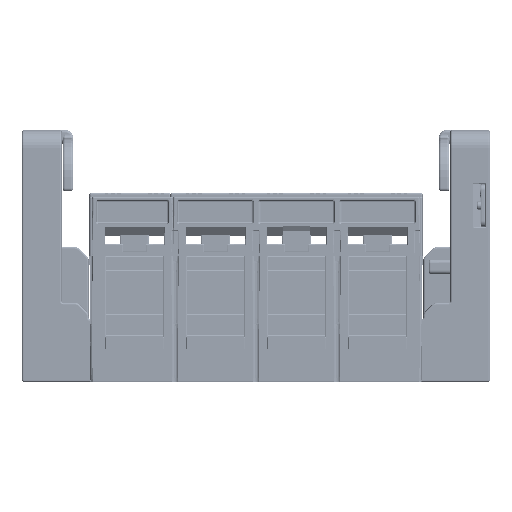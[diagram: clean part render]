
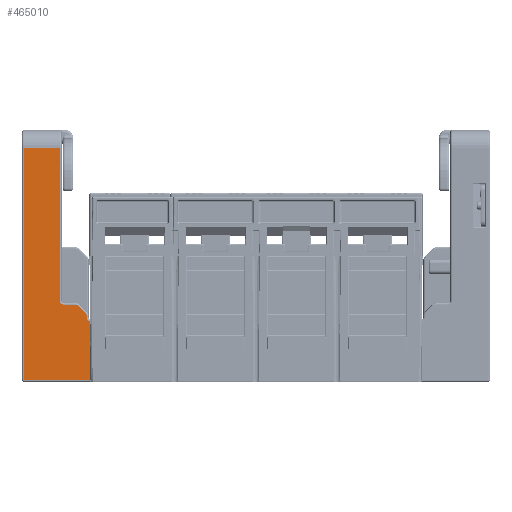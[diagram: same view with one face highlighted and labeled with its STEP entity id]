
A CAD part, front view. The second image highlights one B-rep face of the part: STEP entity #465010.
In plain terms, the highlighted planar face has unit normal (0, -1, 0).
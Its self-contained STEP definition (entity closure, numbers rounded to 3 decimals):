
#462254 = VERTEX_POINT ( 'NONE', #490273 ) ;
#462264 = EDGE_CURVE ( 'NONE', #462267, #462254, #490256, .T. ) ;
#462267 = VERTEX_POINT ( 'NONE', #490231 ) ;
#464785 = VERTEX_POINT ( 'NONE', #500492 ) ;
#464793 = EDGE_CURVE ( 'NONE', #464796, #464785, #500664, .T. ) ;
#464796 = VERTEX_POINT ( 'NONE', #500649 ) ;
#465010 = ADVANCED_FACE ( 'NONE', ( #501268 ), #501409, .F. ) ;
#465018 = EDGE_LOOP ( 'NONE', ( #465021, #465043, #465149, #465169, #465184, #465197, #465212, #465330, #465333, #465342, #465354, #465114 ) ) ;
#465021 = ORIENTED_EDGE ( 'NONE', *, *, #465027, .F. ) ;
#465027 = EDGE_CURVE ( 'NONE', #465032, #465036, #501362, .T. ) ;
#465032 = VERTEX_POINT ( 'NONE', #501353 ) ;
#465036 = VERTEX_POINT ( 'NONE', #501339 ) ;
#465043 = ORIENTED_EDGE ( 'NONE', *, *, #465045, .F. ) ;
#465045 = EDGE_CURVE ( 'NONE', #465048, #465032, #501318, .T. ) ;
#465048 = VERTEX_POINT ( 'NONE', #501322 ) ;
#465114 = ORIENTED_EDGE ( 'NONE', *, *, #465116, .F. ) ;
#465116 = EDGE_CURVE ( 'NONE', #465036, #462254, #501574, .T. ) ;
#465149 = ORIENTED_EDGE ( 'NONE', *, *, #465160, .F. ) ;
#465160 = EDGE_CURVE ( 'NONE', #465163, #465048, #501876, .T. ) ;
#465163 = VERTEX_POINT ( 'NONE', #501864 ) ;
#465169 = ORIENTED_EDGE ( 'NONE', *, *, #465178, .F. ) ;
#465178 = EDGE_CURVE ( 'NONE', #465180, #465163, #501833, .T. ) ;
#465180 = VERTEX_POINT ( 'NONE', #502065 ) ;
#465184 = ORIENTED_EDGE ( 'NONE', *, *, #465193, .F. ) ;
#465193 = EDGE_CURVE ( 'NONE', #465196, #465180, #502055, .T. ) ;
#465196 = VERTEX_POINT ( 'NONE', #502011 ) ;
#465197 = ORIENTED_EDGE ( 'NONE', *, *, #465199, .F. ) ;
#465199 = EDGE_CURVE ( 'NONE', #465202, #465196, #501950, .T. ) ;
#465202 = VERTEX_POINT ( 'NONE', #501952 ) ;
#465212 = ORIENTED_EDGE ( 'NONE', *, *, #465214, .F. ) ;
#465214 = EDGE_CURVE ( 'NONE', #464796, #465202, #502154, .T. ) ;
#465330 = ORIENTED_EDGE ( 'NONE', *, *, #464793, .T. ) ;
#465333 = ORIENTED_EDGE ( 'NONE', *, *, #465335, .F. ) ;
#465335 = EDGE_CURVE ( 'NONE', #465338, #464785, #502688, .T. ) ;
#465338 = VERTEX_POINT ( 'NONE', #502645 ) ;
#465342 = ORIENTED_EDGE ( 'NONE', *, *, #465349, .F. ) ;
#465349 = EDGE_CURVE ( 'NONE', #462267, #465338, #502576, .T. ) ;
#465354 = ORIENTED_EDGE ( 'NONE', *, *, #462264, .T. ) ;
#490231 = CARTESIAN_POINT ( 'NONE',  ( -114.938, -85., 1. ) ) ;
#490251 = DIRECTION ( 'NONE',  ( 0., 0., 1. ) ) ;
#490253 = VECTOR ( 'NONE', #490251, 1000. ) ;
#490255 = CARTESIAN_POINT ( 'NONE',  ( -114.938, -85., 0. ) ) ;
#490256 = LINE ( 'NONE', #490255, #490253 ) ;
#490273 = CARTESIAN_POINT ( 'NONE',  ( -114.938, -85., 33.93 ) ) ;
#500492 = CARTESIAN_POINT ( 'NONE',  ( -151.438, -85., 130. ) ) ;
#500649 = CARTESIAN_POINT ( 'NONE',  ( -131.438, -85., 130. ) ) ;
#500652 = DIRECTION ( 'NONE',  ( -1., 0., 0. ) ) ;
#500655 = VECTOR ( 'NONE', #500652, 1000. ) ;
#500659 = CARTESIAN_POINT ( 'NONE',  ( -130.438, -85., 130. ) ) ;
#500664 = LINE ( 'NONE', #500659, #500655 ) ;
#501268 = FACE_OUTER_BOUND ( 'NONE', #465018, .T. ) ;
#501306 = DIRECTION ( 'NONE',  ( 0., 0., -1. ) ) ;
#501310 = DIRECTION ( 'NONE',  ( 0., 1., 0. ) ) ;
#501312 = CARTESIAN_POINT ( 'NONE',  ( -119.438, -85., 36.343 ) ) ;
#501314 = AXIS2_PLACEMENT_3D ( 'NONE', #501312, #501310, #501306 ) ;
#501318 = CIRCLE ( 'NONE', #501314, 3. ) ;
#501322 = CARTESIAN_POINT ( 'NONE',  ( -117.316, -85., 38.464 ) ) ;
#501339 = CARTESIAN_POINT ( 'NONE',  ( -116.438, -85., 35.866 ) ) ;
#501353 = CARTESIAN_POINT ( 'NONE',  ( -116.438, -85., 36.343 ) ) ;
#501356 = DIRECTION ( 'NONE',  ( 0., 0., -1. ) ) ;
#501357 = VECTOR ( 'NONE', #501356, 1000. ) ;
#501360 = CARTESIAN_POINT ( 'NONE',  ( -116.438, -85., 35.866 ) ) ;
#501362 = LINE ( 'NONE', #501360, #501357 ) ;
#501388 = DIRECTION ( 'NONE',  ( 0., 0., -1. ) ) ;
#501392 = DIRECTION ( 'NONE',  ( 0., 1., 0. ) ) ;
#501395 = CARTESIAN_POINT ( 'NONE',  ( -130.438, -85., 130. ) ) ;
#501399 = AXIS2_PLACEMENT_3D ( 'NONE', #501395, #501392, #501388 ) ;
#501409 = PLANE ( 'NONE',  #501399 ) ;
#501563 = CARTESIAN_POINT ( 'NONE',  ( -114.438, -85., 35.866 ) ) ;
#501571 = DIRECTION ( 'NONE',  ( 0., -1., 0. ) ) ;
#501572 = AXIS2_PLACEMENT_3D ( 'NONE', #501563, #501571, #501774 ) ;
#501574 = CIRCLE ( 'NONE', #501572, 2. ) ;
#501774 = DIRECTION ( 'NONE',  ( 0., 0., -1. ) ) ;
#501825 = DIRECTION ( 'NONE',  ( 0., 0., -1. ) ) ;
#501828 = DIRECTION ( 'NONE',  ( 0., 1., 0. ) ) ;
#501829 = CARTESIAN_POINT ( 'NONE',  ( -123.094, -85., 40. ) ) ;
#501831 = AXIS2_PLACEMENT_3D ( 'NONE', #501829, #501828, #501825 ) ;
#501833 = CIRCLE ( 'NONE', #501831, 3. ) ;
#501864 = CARTESIAN_POINT ( 'NONE',  ( -120.973, -85., 42.121 ) ) ;
#501868 = DIRECTION ( 'NONE',  ( 0.707, 0., -0.707 ) ) ;
#501871 = VECTOR ( 'NONE', #501868, 1000. ) ;
#501873 = CARTESIAN_POINT ( 'NONE',  ( -117.316, -85., 38.464 ) ) ;
#501876 = LINE ( 'NONE', #501873, #501871 ) ;
#501944 = DIRECTION ( 'NONE',  ( 0., 0., -1. ) ) ;
#501946 = DIRECTION ( 'NONE',  ( 0., -1., 0. ) ) ;
#501947 = CARTESIAN_POINT ( 'NONE',  ( -129.438, -85., 45. ) ) ;
#501948 = AXIS2_PLACEMENT_3D ( 'NONE', #501947, #501946, #501944 ) ;
#501950 = CIRCLE ( 'NONE', #501948, 2. ) ;
#501952 = CARTESIAN_POINT ( 'NONE',  ( -131.438, -85., 45. ) ) ;
#502011 = CARTESIAN_POINT ( 'NONE',  ( -129.438, -85., 43. ) ) ;
#502019 = DIRECTION ( 'NONE',  ( 1., 0., 0. ) ) ;
#502023 = VECTOR ( 'NONE', #502019, 1000. ) ;
#502025 = CARTESIAN_POINT ( 'NONE',  ( -123.094, -85., 43. ) ) ;
#502055 = LINE ( 'NONE', #502025, #502023 ) ;
#502065 = CARTESIAN_POINT ( 'NONE',  ( -123.094, -85., 43. ) ) ;
#502149 = DIRECTION ( 'NONE',  ( 0., 0., -1. ) ) ;
#502150 = VECTOR ( 'NONE', #502149, 1000. ) ;
#502152 = CARTESIAN_POINT ( 'NONE',  ( -131.438, -85., 45. ) ) ;
#502154 = LINE ( 'NONE', #502152, #502150 ) ;
#502576 = LINE ( 'NONE', #502820, #502818 ) ;
#502645 = CARTESIAN_POINT ( 'NONE',  ( -151.438, -85., 1. ) ) ;
#502656 = DIRECTION ( 'NONE',  ( 0., 0., 1. ) ) ;
#502659 = VECTOR ( 'NONE', #502656, 1000. ) ;
#502660 = CARTESIAN_POINT ( 'NONE',  ( -151.438, -85., 130. ) ) ;
#502688 = LINE ( 'NONE', #502660, #502659 ) ;
#502816 = DIRECTION ( 'NONE',  ( -1., 0., 0. ) ) ;
#502818 = VECTOR ( 'NONE', #502816, 1000. ) ;
#502820 = CARTESIAN_POINT ( 'NONE',  ( -130.438, -85., 1. ) ) ;
